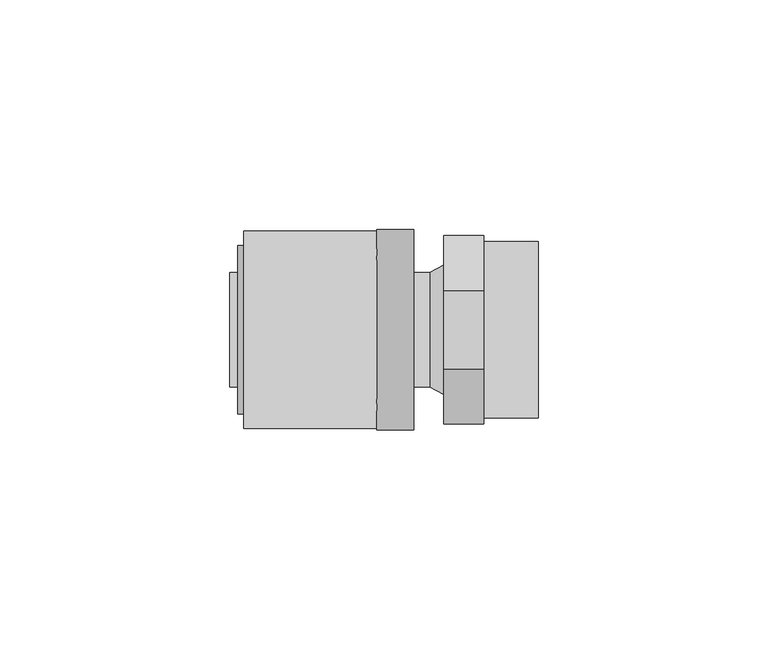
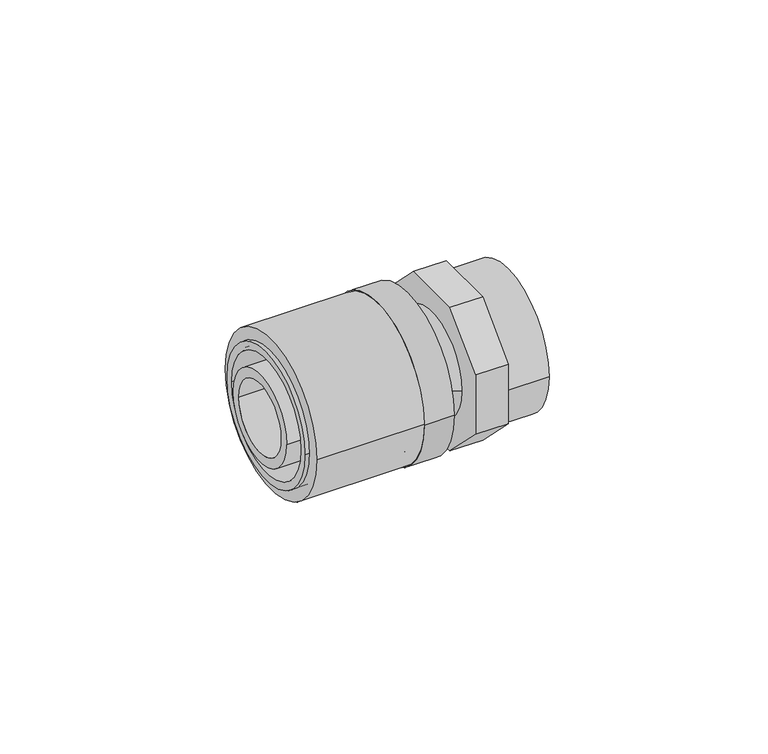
"""IFC4 building model written with IfcOpenShell, lengths in millimetres: pipe fitting geometry, FASTLOC_Adapter_LX, with internal thread : FSL A internal CZ."""

from ifc_helpers import new_model, si_unit, point, frame, origin, origin_2d, place, context, project, spatial, polyline, circle_curve, trimmed, segment, composite_curve, outline, extrude, source, transform, mapped, element, save
from ifc_brep_helpers import plane_surface, cylinder_surface, revolved_surface, advanced_brep


def pipe_fitting_1e296f3b(model_context):
    return source(origin(), model_context, "Body", "SolidModel", [
        extrude(outline(composite_curve([segment(trimmed(circle_curve(origin_2d(), 21.5), [point((21.5, 0.0))], [point((-21.5, 0.0))], False, "CARTESIAN"), True, "CONTINUOUS"), segment(trimmed(circle_curve(origin_2d(), 21.5), [point((-21.5, 0.0))], [point((21.5, 0.0))], False, "CARTESIAN"), True, "CONTINUOUS")], self_intersect=False), holes=[composite_curve([segment(trimmed(circle_curve(origin_2d(), 16.85), [point((16.85, 0.0))], [point((-16.85, 0.0))], True, "CARTESIAN"), True, "CONTINUOUS"), segment(trimmed(circle_curve(origin_2d(), 16.85), [point((-16.85, 0.0))], [point((16.85, 0.0))], True, "CARTESIAN"), True, "CONTINUOUS")], self_intersect=False)]), frame((-43.5, 0.0, 0.0), z_axis=(1.0, 0.0, 0.0), x_axis=(0.0, 1.0, 0.0)), (0.0, 0.0, 1.0), 29.0),
        advanced_brep(
        [(-14.5, -21.8, 0.0), (-14.5, 21.8, 0.0), (-6.5, 21.8, 0.0), (-6.5, -21.8, 0.0), (-44.8, -18.35, 0.0), (-44.8, 18.35, 0.0), (-14.5, 18.35, 0.0), (-14.5, -18.35, 0.0), (-6.5, -16.2, 0.0), (-6.5, 16.2, 0.0), (-44.8, 16.2, 0.0), (-44.8, -16.2, 0.0)],
        [
            (0, 1, circle_curve(frame((-14.5, 0.0, 0.0), z_axis=(1.0, 0.0, 0.0), x_axis=(0.0, 1.0, 0.0)), 21.8)),
            (1, 2),
            (2, 3, circle_curve(frame((-6.5, 0.0, 0.0), z_axis=(-1.0, 0.0, 0.0), x_axis=(0.0, 1.0, 0.0)), 21.8)),
            (3, 0),
            (4, 5, circle_curve(frame((-44.8, 0.0, 0.0), z_axis=(1.0, 0.0, 0.0), x_axis=(0.0, 1.0, 0.0)), 18.35)),
            (5, 6),
            (6, 7, circle_curve(frame((-14.5, 0.0, 0.0), z_axis=(-1.0, 0.0, 0.0), x_axis=(0.0, 1.0, 0.0)), 18.35)),
            (7, 4),
            (8, 9, circle_curve(frame((-6.5, 0.0, 0.0), z_axis=(1.0, 0.0, 0.0), x_axis=(0.0, 1.0, 0.0)), 16.2)),
            (9, 10),
            (10, 11, circle_curve(frame((-44.8, 0.0, 0.0), z_axis=(-1.0, 0.0, 0.0), x_axis=(0.0, 1.0, 0.0)), 16.2)),
            (11, 8),
            (1, 0, circle_curve(frame((-14.5, 0.0, 0.0), z_axis=(1.0, 0.0, 0.0), x_axis=(0.0, -1.0, 0.0)), 21.8)),
            (3, 2, circle_curve(frame((-6.5, 0.0, 0.0), z_axis=(-1.0, 0.0, 0.0), x_axis=(0.0, -1.0, 0.0)), 21.8)),
            (6, 7, circle_curve(frame((-14.5, 0.0, 0.0), z_axis=(1.0, 0.0, 0.0), x_axis=(0.0, -1.0, 0.0)), 18.35)),
            (5, 4, circle_curve(frame((-44.8, 0.0, 0.0), z_axis=(1.0, 0.0, 0.0), x_axis=(0.0, -1.0, 0.0)), 18.35)),
            (10, 11, circle_curve(frame((-44.8, 0.0, 0.0), z_axis=(1.0, 0.0, 0.0), x_axis=(0.0, -1.0, 0.0)), 16.2)),
            (9, 8, circle_curve(frame((-6.5, 0.0, 0.0), z_axis=(1.0, 0.0, 0.0), x_axis=(0.0, -1.0, 0.0)), 16.2)),
        ],
        [
            cylinder_surface(frame((-6.5, 0.0, 0.0), z_axis=(-1.0, 0.0, 0.0), x_axis=(0.0, 1.0, 0.0)), 21.8),
            cylinder_surface(frame((-6.5, 0.0, 0.0), z_axis=(-1.0, 0.0, 0.0), x_axis=(0.0, 1.0, 0.0)), 18.35),
            revolved_surface(polyline([(-44.8, 16.2, 0.0), (-6.5, 16.2, 0.0)]), (-6.5, 0.0, 0.0), (-1.0, 0.0, 0.0)),
            cylinder_surface(frame((-6.5, 0.0, 0.0), z_axis=(-1.0, 0.0, 0.0), x_axis=(0.0, -1.0, 0.0)), 21.8),
            plane_surface(frame((-14.5, 0.0, 0.0), z_axis=(-1.0, 0.0, 0.0), x_axis=(0.0, -1.0, 0.0))),
            cylinder_surface(frame((-6.5, 0.0, 0.0), z_axis=(-1.0, 0.0, 0.0), x_axis=(0.0, -1.0, 0.0)), 18.35),
            plane_surface(frame((-44.8, 0.0, 0.0), z_axis=(-1.0, 0.0, 0.0), x_axis=(0.0, -1.0, 0.0))),
            revolved_surface(polyline([(-44.8, -16.2, 0.0), (-6.5, -16.2, 0.0)]), (-6.5, 0.0, 0.0), (-1.0, 0.0, 0.0)),
            plane_surface(frame((-6.5, 0.0, 0.0), z_axis=(1.0, 0.0, 0.0), x_axis=(0.0, -1.0, 0.0))),
        ],
        [
            (0, [[1, 2, 3, 4]]),
            (1, [[5, 6, 7, 8]]),
            (2, [[9, 10, 11, 12]]),
            (3, [[13, -4, 14, -2]]),
            (4, [[-13, -1], [15, -7]]),
            (5, [[16, -8, -15, -6]]),
            (6, [[-16, -5], [17, -11]]),
            (7, [[18, -12, -17, -10]]),
            (8, [[-14, -3], [-18, -9]]),
        ],
    ),
        advanced_brep(
        [(-14.5, 12.5, 0.0), (-14.5, -12.5, 0.0), (-46.5, -12.5, 0.0), (-46.5, 12.5, 0.0), (-11.5, 14.1, 0.0), (-11.5, -14.1, 0.0), (-14.5, -14.1, 0.0), (-14.5, 14.1, 0.0), (-3.0, 12.5, 0.0), (-3.0, -12.5, 0.0), (-11.5, -12.5, 0.0), (-11.5, 12.5, 0.0), (0.0, 14.1, 0.0), (0.0, -14.1, 0.0), (-46.5, 9.85, 0.0), (-46.5, -9.85, 0.0), (0.0, -9.85, 0.0), (0.0, 9.85, 0.0)],
        [
            (0, 1, circle_curve(frame((-14.5, 0.0, 0.0), z_axis=(-1.0, 0.0, 0.0), x_axis=(0.0, -1.0, 0.0)), 12.5)),
            (1, 2),
            (2, 3, circle_curve(frame((-46.5, 0.0, 0.0), z_axis=(1.0, 0.0, 0.0), x_axis=(0.0, -1.0, 0.0)), 12.5)),
            (3, 0),
            (4, 5, circle_curve(frame((-11.5, 0.0, 0.0), z_axis=(-1.0, 0.0, 0.0), x_axis=(0.0, -1.0, 0.0)), 14.1)),
            (5, 6),
            (6, 7, circle_curve(frame((-14.5, 0.0, 0.0), z_axis=(1.0, 0.0, 0.0), x_axis=(0.0, -1.0, 0.0)), 14.1)),
            (7, 4),
            (8, 9, circle_curve(frame((-3.0, 0.0, 0.0), z_axis=(-1.0, 0.0, 0.0), x_axis=(0.0, -1.0, 0.0)), 12.5)),
            (9, 10),
            (10, 11, circle_curve(frame((-11.5, 0.0, 0.0), z_axis=(1.0, 0.0, 0.0), x_axis=(0.0, -1.0, 0.0)), 12.5)),
            (11, 8),
            (12, 13, circle_curve(frame((0.0, 0.0, 0.0), z_axis=(-1.0, 0.0, 0.0), x_axis=(0.0, -1.0, 0.0)), 14.1)),
            (13, 9),
            (8, 12),
            (14, 15, circle_curve(frame((-46.5, 0.0, 0.0), z_axis=(-1.0, 0.0, 0.0), x_axis=(0.0, -1.0, 0.0)), 9.85)),
            (15, 16),
            (16, 17, circle_curve(frame((0.0, 0.0, 0.0), z_axis=(1.0, 0.0, 0.0), x_axis=(0.0, -1.0, 0.0)), 9.85)),
            (17, 14),
            (2, 3, circle_curve(frame((-46.5, 0.0, 0.0), z_axis=(-1.0, 0.0, 0.0), x_axis=(0.0, 1.0, 0.0)), 12.5)),
            (14, 15, circle_curve(frame((-46.5, 0.0, 0.0), z_axis=(1.0, 0.0, 0.0), x_axis=(0.0, 1.0, 0.0)), 9.85)),
            (1, 0, circle_curve(frame((-14.5, 0.0, 0.0), z_axis=(-1.0, 0.0, 0.0), x_axis=(0.0, 1.0, 0.0)), 12.5)),
            (6, 7, circle_curve(frame((-14.5, 0.0, 0.0), z_axis=(-1.0, 0.0, 0.0), x_axis=(0.0, 1.0, 0.0)), 14.1)),
            (5, 4, circle_curve(frame((-11.5, 0.0, 0.0), z_axis=(-1.0, 0.0, 0.0), x_axis=(0.0, 1.0, 0.0)), 14.1)),
            (10, 11, circle_curve(frame((-11.5, 0.0, 0.0), z_axis=(-1.0, 0.0, 0.0), x_axis=(0.0, 1.0, 0.0)), 12.5)),
            (9, 8, circle_curve(frame((-3.0, 0.0, 0.0), z_axis=(-1.0, 0.0, 0.0), x_axis=(0.0, 1.0, 0.0)), 12.5)),
            (13, 12, circle_curve(frame((0.0, 0.0, 0.0), z_axis=(-1.0, 0.0, 0.0), x_axis=(0.0, 1.0, 0.0)), 14.1)),
            (16, 17, circle_curve(frame((0.0, 0.0, 0.0), z_axis=(-1.0, 0.0, 0.0), x_axis=(0.0, 1.0, 0.0)), 9.85)),
        ],
        [
            cylinder_surface(frame((0.0, 0.0, 0.0), z_axis=(1.0, 0.0, 0.0), x_axis=(0.0, -1.0, 0.0)), 12.5),
            cylinder_surface(frame((0.0, 0.0, 0.0), z_axis=(1.0, 0.0, 0.0), x_axis=(0.0, -1.0, 0.0)), 14.1),
            revolved_surface(polyline([(-3.0, -12.5, 0.0), (0.0, -14.1, 0.0)]), (0.0, 0.0, 0.0), (1.0, 0.0, 0.0)),
            revolved_surface(polyline([(0.0, -9.85, 0.0), (-46.5, -9.85, 0.0)]), (0.0, 0.0, 0.0), (1.0, 0.0, 0.0)),
            plane_surface(frame((-46.5, 0.0, 0.0), z_axis=(-1.0, 0.0, 0.0), x_axis=(0.0, 1.0, 0.0))),
            cylinder_surface(frame((0.0, 0.0, 0.0), z_axis=(1.0, 0.0, 0.0), x_axis=(0.0, 1.0, 0.0)), 12.5),
            plane_surface(frame((-14.5, 0.0, 0.0), z_axis=(-1.0, 0.0, 0.0), x_axis=(0.0, 1.0, 0.0))),
            cylinder_surface(frame((0.0, 0.0, 0.0), z_axis=(1.0, 0.0, 0.0), x_axis=(0.0, 1.0, 0.0)), 14.1),
            plane_surface(frame((-11.5, 0.0, 0.0), z_axis=(1.0, 0.0, 0.0), x_axis=(0.0, 1.0, 0.0))),
            revolved_surface(polyline([(-3.0, 12.5, 0.0), (0.0, 14.1, 0.0)]), (0.0, 0.0, 0.0), (1.0, 0.0, 0.0)),
            plane_surface(frame((0.0, 0.0, 0.0), z_axis=(1.0, 0.0, 0.0), x_axis=(0.0, 1.0, 0.0))),
            revolved_surface(polyline([(0.0, 9.85, 0.0), (-46.5, 9.85, 0.0)]), (0.0, 0.0, 0.0), (1.0, 0.0, 0.0)),
        ],
        [
            (0, [[1, 2, 3, 4]]),
            (1, [[5, 6, 7, 8]]),
            (0, [[9, 10, 11, 12]]),
            (2, [[13, 14, -9, 15]]),
            (3, [[16, 17, 18, 19]]),
            (4, [[20, -3], [21, -16]]),
            (5, [[22, -4, -20, -2]]),
            (6, [[23, -7], [-22, -1]]),
            (7, [[24, -8, -23, -6]]),
            (8, [[-24, -5], [25, -11]]),
            (5, [[26, -12, -25, -10]]),
            (9, [[27, -15, -26, -14]]),
            (10, [[-27, -13], [28, -18]]),
            (11, [[-21, -19, -28, -17]]),
        ],
    ),
        extrude(outline(polyline([(-8.491378, -20.5), (-20.5, -8.491378), (-20.5, 8.491378), (-8.491378, 20.5), (8.491378, 20.5), (20.5, 8.491378), (20.5, -8.491378), (8.491378, -20.5), (-8.491378, -20.5)]), holes=[composite_curve([segment(trimmed(circle_curve(origin_2d(), 9.85), [point((-9.85, 0.0))], [point((9.85, 0.0))], True, "CARTESIAN"), True, "CONTINUOUS"), segment(trimmed(circle_curve(origin_2d(), 9.85), [point((9.85, 0.0))], [point((-9.85, 0.0))], True, "CARTESIAN"), True, "CONTINUOUS")], self_intersect=False)]), frame((0.0, 0.0, 0.0), z_axis=(1.0, 0.0, 0.0), x_axis=(0.0, 1.0, 0.0)), (0.0, 0.0, 1.0), 8.8),
        extrude(outline(composite_curve([segment(trimmed(circle_curve(origin_2d(), 19.25), [point((-19.25, 0.0))], [point((19.25, 0.0))], False, "CARTESIAN"), True, "CONTINUOUS"), segment(trimmed(circle_curve(origin_2d(), 19.25), [point((19.25, 0.0))], [point((-19.25, 0.0))], False, "CARTESIAN"), True, "CONTINUOUS")], self_intersect=False), holes=[composite_curve([segment(trimmed(circle_curve(origin_2d(), 15.2), [point((-15.2, 0.0))], [point((15.2, 0.0))], True, "CARTESIAN"), True, "CONTINUOUS"), segment(trimmed(circle_curve(origin_2d(), 15.2), [point((15.2, 0.0))], [point((-15.2, 0.0))], True, "CARTESIAN"), True, "CONTINUOUS")], self_intersect=False)]), frame((8.8, 0.0, 0.0), z_axis=(1.0, 0.0, 0.0), x_axis=(0.0, 1.0, 0.0)), (0.0, 0.0, 1.0), 11.8),
    ])


if __name__ == "__main__":
    model = new_model("IFC4")
    model_context = context("Model", 3, world=origin())
    ifc_project = project(units=[si_unit("LENGTHUNIT", "METRE", prefix="MILLI")], contexts=[model_context])
    site = spatial("IfcSite", under=ifc_project)
    building = spatial("IfcBuilding", under=site)
    placement = place(None, origin())
    pipe_fitting_shape = pipe_fitting_1e296f3b(model_context)
    element("IfcPipeFitting", 1, ObjectType="FASTLOC_Adapter_LX, with internal thread : FSL A internal CZ", at=placement, inside=building, context=model_context, shape_type="MappedRepresentation", body=[
        mapped(pipe_fitting_shape, transform((0.0, 0.0, 0.0), x_axis=(1.0, 0.0, 0.0), y_axis=(0.0, 1.0, 0.0), z_axis=(0.0, 0.0, 1.0))),
    ])
    save(model, "model.ifc")
